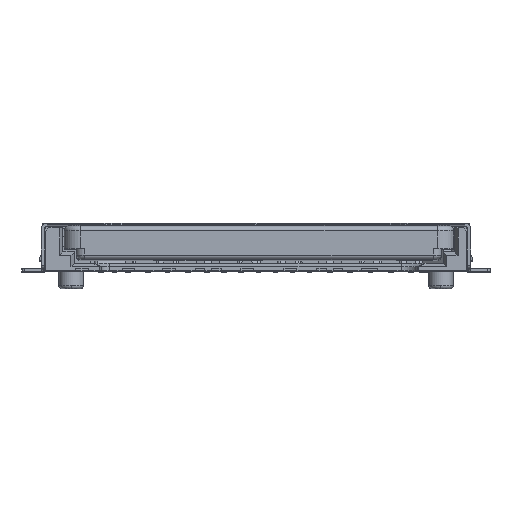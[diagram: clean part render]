
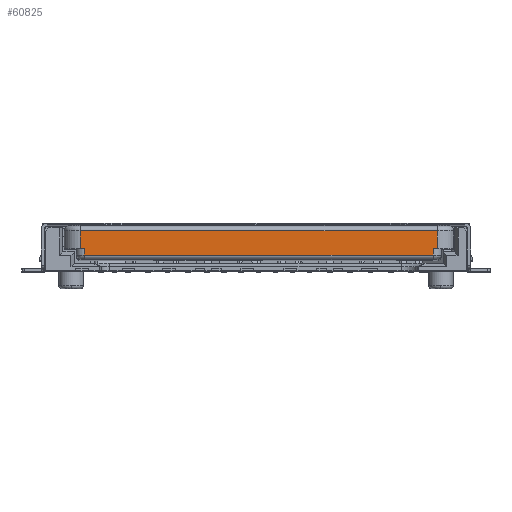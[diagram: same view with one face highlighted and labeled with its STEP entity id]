
A CAD part, top view. The second image highlights one B-rep face of the part: STEP entity #60825.
In plain terms, the highlighted planar face has unit normal (0, 0, 1).
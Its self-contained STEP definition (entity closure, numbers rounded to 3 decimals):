
#8521=DIRECTION('',(0.,-1.,0.));
#8522=VECTOR('',#8521,1.1);
#8523=CARTESIAN_POINT('',(13.361,14.376,24.68));
#8524=LINE('',#8523,#8522);
#8551=DIRECTION('',(-1.,0.,0.));
#8552=VECTOR('',#8551,0.25);
#8553=CARTESIAN_POINT('',(13.361,13.276,24.68));
#8554=LINE('',#8553,#8552);
#8559=DIRECTION('',(0.,-1.,0.));
#8560=VECTOR('',#8559,0.4);
#8561=CARTESIAN_POINT('',(13.111,13.276,24.68));
#8562=LINE('',#8561,#8560);
#21638=DIRECTION('',(0.,1.,0.));
#21639=VECTOR('',#21638,0.4);
#21640=CARTESIAN_POINT('',(-8.389,12.876,24.68));
#21641=LINE('',#21640,#21639);
#21837=DIRECTION('',(0.,1.,0.));
#21838=VECTOR('',#21837,1.1);
#21839=CARTESIAN_POINT('',(-8.639,13.276,24.68));
#21840=LINE('',#21839,#21838);
#21841=DIRECTION('',(1.,0.,0.));
#21842=VECTOR('',#21841,0.25);
#21843=CARTESIAN_POINT('',(-8.639,13.276,24.68));
#21844=LINE('',#21843,#21842);
#21845=DIRECTION('',(-1.,0.,0.));
#21846=VECTOR('',#21845,21.5);
#21847=CARTESIAN_POINT('',(13.111,12.876,24.68));
#21848=LINE('',#21847,#21846);
#21853=DIRECTION('',(1.,0.,0.));
#21854=VECTOR('',#21853,22.);
#21855=CARTESIAN_POINT('',(-8.639,14.376,24.68));
#21856=LINE('',#21855,#21854);
#28782=CARTESIAN_POINT('',(13.361,13.276,24.68));
#28784=VERTEX_POINT('',#28782);
#29219=CARTESIAN_POINT('',(-8.639,13.276,24.68));
#29220=CARTESIAN_POINT('',(-8.389,13.276,24.68));
#29221=VERTEX_POINT('',#29219);
#29222=VERTEX_POINT('',#29220);
#30799=CARTESIAN_POINT('',(13.111,13.276,24.68));
#30800=VERTEX_POINT('',#30799);
#33036=CARTESIAN_POINT('',(-8.389,12.876,24.68));
#33038=VERTEX_POINT('',#33036);
#33430=CARTESIAN_POINT('',(13.111,12.876,24.68));
#33431=VERTEX_POINT('',#33430);
#34470=CARTESIAN_POINT('',(-8.639,14.376,24.68));
#34471=VERTEX_POINT('',#34470);
#34709=CARTESIAN_POINT('',(13.361,14.376,24.68));
#34710=VERTEX_POINT('',#34709);
#60808=CARTESIAN_POINT('',(2.361,13.626,24.68));
#60809=DIRECTION('',(0.,0.,1.));
#60810=DIRECTION('',(1.,0.,0.));
#60811=AXIS2_PLACEMENT_3D('',#60808,#60809,#60810);
#60812=PLANE('',#60811);
#60813=ORIENTED_EDGE('',*,*,#41504,.T.);
#60814=ORIENTED_EDGE('',*,*,#41530,.T.);
#60816=ORIENTED_EDGE('',*,*,#60815,.T.);
#60817=ORIENTED_EDGE('',*,*,#60555,.T.);
#60818=ORIENTED_EDGE('',*,*,#60577,.F.);
#60819=ORIENTED_EDGE('',*,*,#60791,.T.);
#60821=ORIENTED_EDGE('',*,*,#60820,.T.);
#60822=ORIENTED_EDGE('',*,*,#41484,.T.);
#60823=EDGE_LOOP('',(#60813,#60814,#60816,#60817,#60818,#60819,#60821,#60822));
#60824=FACE_OUTER_BOUND('',#60823,.F.);
#41484=EDGE_CURVE('',#34710,#28784,#8524,.T.);
#41504=EDGE_CURVE('',#28784,#30800,#8554,.T.);
#41530=EDGE_CURVE('',#30800,#33431,#8562,.T.);
#60555=EDGE_CURVE('',#33038,#29222,#21641,.T.);
#60577=EDGE_CURVE('',#29221,#29222,#21844,.T.);
#60791=EDGE_CURVE('',#29221,#34471,#21840,.T.);
#60815=EDGE_CURVE('',#33431,#33038,#21848,.T.);
#60820=EDGE_CURVE('',#34471,#34710,#21856,.T.);
#60825=ADVANCED_FACE('',(#60824),#60812,.T.);
